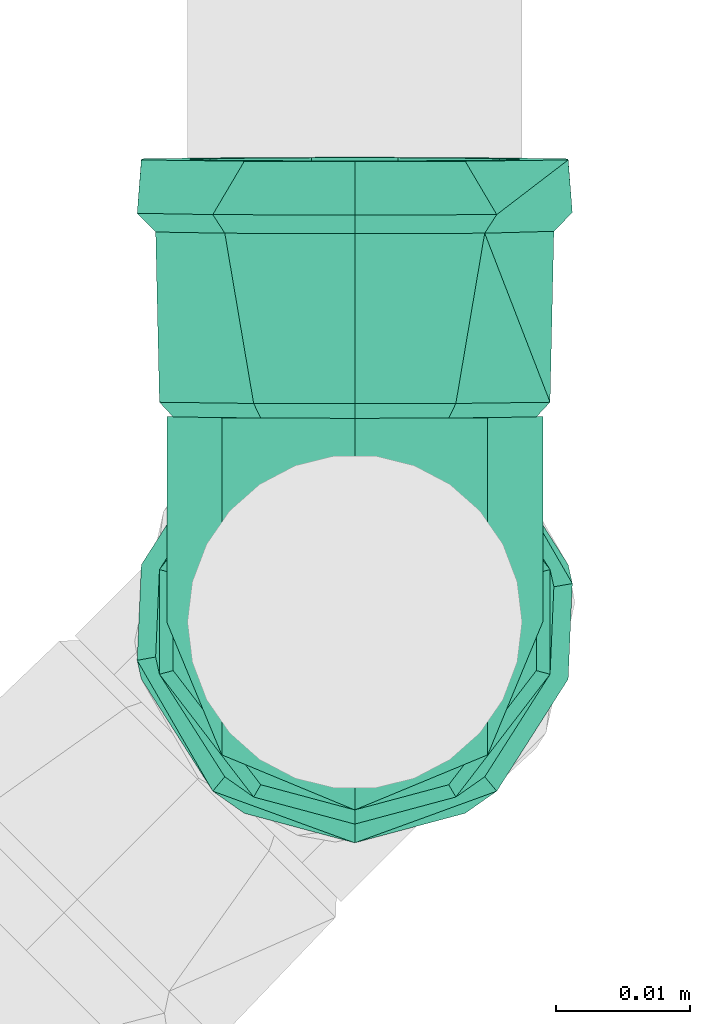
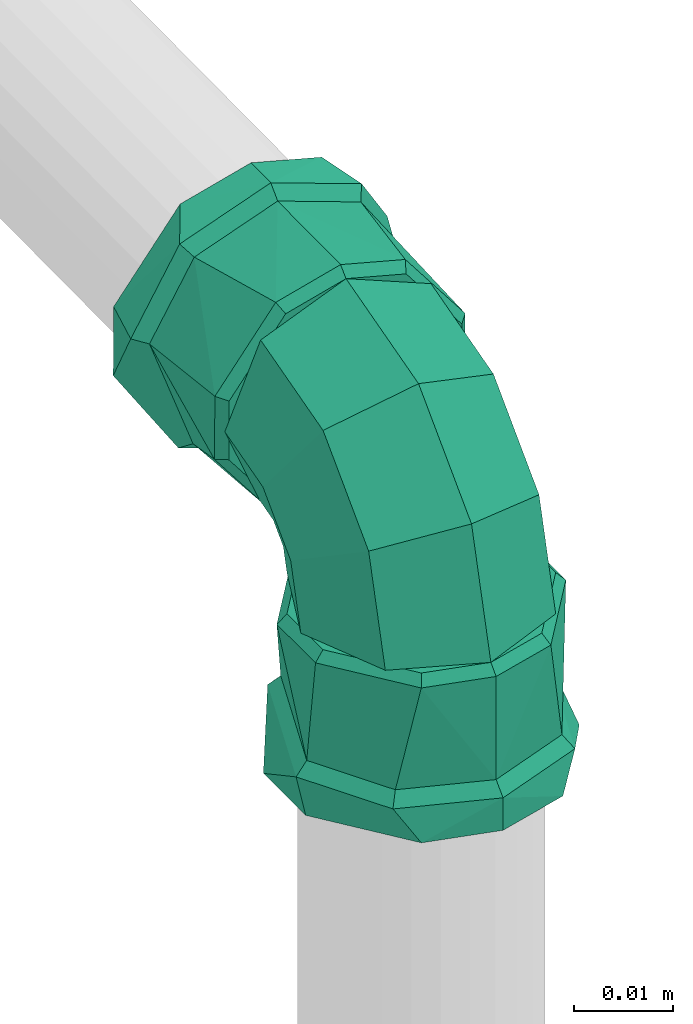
# One storey, part 340 of 589: 1 flow fitting.
"""IFC2X3 building model written with IfcOpenShell, lengths in millimetres."""

from ifc_helpers import new_model, entity, si_unit, converted_unit, derived_unit, direction, frame, origin, place, context, subcontext, project, spatial, faceted_brep, source, transform, mapped, material, type_object, type_shapes, element, save


model = new_model("IFC2X3")

# Units and contexts
model_context = context("Model", 3, precision=0.01, world=origin(), true_north=direction((6.123031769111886e-17, 1.0)))
body_context = subcontext(model_context, "Body", "Model", "MODEL_VIEW")
ifc_project = project(units=[si_unit("LENGTHUNIT", "METRE", prefix="MILLI"), si_unit("AREAUNIT", "SQUARE_METRE"), si_unit("VOLUMEUNIT", "CUBIC_METRE"), converted_unit("PLANEANGLEUNIT", "DEGREE", entity("IfcRatioMeasure", 0.017453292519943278), si_unit("PLANEANGLEUNIT", "RADIAN"), dimensions=[0, 0, 0, 0, 0, 0, 0]), si_unit("MASSUNIT", "GRAM", prefix="KILO"), derived_unit("MASSDENSITYUNIT", [(si_unit("MASSUNIT", "GRAM", prefix="KILO"), 1), (si_unit("LENGTHUNIT", "METRE"), -3)]), derived_unit("IONCONCENTRATIONUNIT", [(si_unit("MASSUNIT", "GRAM", prefix="KILO"), 1), (si_unit("LENGTHUNIT", "METRE"), -3)]), derived_unit("MOMENTOFINERTIAUNIT", [(si_unit("LENGTHUNIT", "METRE"), 4)]), si_unit("TIMEUNIT", "SECOND"), si_unit("FREQUENCYUNIT", "HERTZ"), si_unit("THERMODYNAMICTEMPERATUREUNIT", "DEGREE_CELSIUS"), derived_unit("THERMALTRANSMITTANCEUNIT", [(si_unit("MASSUNIT", "GRAM", prefix="KILO"), 1), (si_unit("THERMODYNAMICTEMPERATUREUNIT", "KELVIN"), -1), (si_unit("TIMEUNIT", "SECOND"), -3)]), derived_unit("THERMALCONDUCTANCEUNIT", [(si_unit("MASSUNIT", "GRAM", prefix="KILO"), 1), (si_unit("THERMODYNAMICTEMPERATUREUNIT", "KELVIN"), -1), (si_unit("TIMEUNIT", "SECOND"), -3), (si_unit("LENGTHUNIT", "METRE"), 1)]), derived_unit("VOLUMETRICFLOWRATEUNIT", [(si_unit("LENGTHUNIT", "METRE"), 3), (si_unit("TIMEUNIT", "SECOND"), -1)]), derived_unit("MASSFLOWRATEUNIT", [(si_unit("MASSUNIT", "GRAM", prefix="KILO"), 1), (si_unit("TIMEUNIT", "SECOND"), -1)]), derived_unit("ROTATIONALFREQUENCYUNIT", [(si_unit("TIMEUNIT", "SECOND"), -1)]), si_unit("ELECTRICCURRENTUNIT", "AMPERE"), si_unit("ELECTRICVOLTAGEUNIT", "VOLT"), si_unit("POWERUNIT", "WATT"), si_unit("FORCEUNIT", "NEWTON", prefix="KILO"), si_unit("ILLUMINANCEUNIT", "LUX"), si_unit("LUMINOUSFLUXUNIT", "LUMEN"), si_unit("LUMINOUSINTENSITYUNIT", "CANDELA"), derived_unit("USERDEFINED", [(si_unit("MASSUNIT", "GRAM", prefix="KILO"), -1), (si_unit("LENGTHUNIT", "METRE"), -2), (si_unit("TIMEUNIT", "SECOND"), 3), (si_unit("LUMINOUSFLUXUNIT", "LUMEN"), 1)]), derived_unit("USERDEFINED", [(si_unit("MASSUNIT", "GRAM", prefix="KILO"), 1), (si_unit("TIMEUNIT", "SECOND"), -3), (si_unit("LENGTHUNIT", "METRE"), 3), (si_unit("ELECTRICCURRENTUNIT", "AMPERE"), -2)]), derived_unit("SOUNDPOWERUNIT", [(si_unit("MASSUNIT", "GRAM", prefix="KILO"), 1), (si_unit("TIMEUNIT", "SECOND"), -3), (si_unit("LENGTHUNIT", "METRE"), 2)]), derived_unit("SOUNDPRESSUREUNIT", [(si_unit("MASSUNIT", "GRAM", prefix="KILO"), 1), (si_unit("LENGTHUNIT", "METRE"), -1), (si_unit("TIMEUNIT", "SECOND"), -2)]), derived_unit("LINEARVELOCITYUNIT", [(si_unit("LENGTHUNIT", "METRE"), 1), (si_unit("TIMEUNIT", "SECOND"), -1)]), si_unit("PRESSUREUNIT", "PASCAL"), derived_unit("USERDEFINED", [(si_unit("MASSUNIT", "GRAM", prefix="KILO"), 1), (si_unit("LENGTHUNIT", "METRE"), -2), (si_unit("TIMEUNIT", "SECOND"), -2)]), derived_unit("LINEARFORCEUNIT", [(si_unit("MASSUNIT", "GRAM", prefix="KILO"), 1), (si_unit("TIMEUNIT", "SECOND"), -2)]), derived_unit("PLANARFORCEUNIT", [(si_unit("MASSUNIT", "GRAM", prefix="KILO"), 1), (si_unit("LENGTHUNIT", "METRE"), -1), (si_unit("TIMEUNIT", "SECOND"), -2)]), derived_unit("SPECIFICHEATCAPACITYUNIT", [(si_unit("THERMODYNAMICTEMPERATUREUNIT", "KELVIN"), -1), (si_unit("LENGTHUNIT", "METRE"), 2), (si_unit("TIMEUNIT", "SECOND"), -2)]), derived_unit("HEATINGVALUEUNIT", [(si_unit("LENGTHUNIT", "METRE"), 2), (si_unit("TIMEUNIT", "SECOND"), -2)]), derived_unit("VAPORPERMEABILITYUNIT", [(si_unit("LENGTHUNIT", "METRE"), -1), (si_unit("TIMEUNIT", "SECOND"), 1)]), derived_unit("DYNAMICVISCOSITYUNIT", [(si_unit("MASSUNIT", "GRAM", prefix="KILO"), 1), (si_unit("TIMEUNIT", "SECOND"), -1), (si_unit("LENGTHUNIT", "METRE"), -1)]), derived_unit("THERMALEXPANSIONCOEFFICIENTUNIT", [(si_unit("THERMODYNAMICTEMPERATUREUNIT", "KELVIN"), -1)]), derived_unit("MODULUSOFELASTICITYUNIT", [(si_unit("MASSUNIT", "GRAM", prefix="KILO"), 1), (si_unit("LENGTHUNIT", "METRE"), -1), (si_unit("TIMEUNIT", "SECOND"), -2)]), derived_unit("ISOTHERMALMOISTURECAPACITYUNIT", [(si_unit("LENGTHUNIT", "METRE"), 3), (si_unit("MASSUNIT", "GRAM", prefix="KILO"), -1)]), derived_unit("MOISTUREDIFFUSIVITYUNIT", [(si_unit("TIMEUNIT", "SECOND"), -1), (si_unit("LENGTHUNIT", "METRE"), 2)])], contexts=[model_context])

# Site, building, storey
site_placement = place(None, origin())
site = spatial("IfcSite", under=ifc_project, at=site_placement, Name="Default", CompositionType="ELEMENT")
building_placement = place(site_placement, origin())
building = spatial("IfcBuilding", under=site, at=building_placement, CompositionType="ELEMENT")
storey_placement = place(building_placement, frame((0.0, 0.0, 100.0)))
storey = spatial("IfcBuildingStorey", under=building, at=storey_placement, Name="TÉRREO", CompositionType="ELEMENT", Elevation=100.0)

# Flow fitting
ifc_material = material(Name="PVC Marrom")
pipe_fitting_type = type_object("IfcPipeFittingType", Name="PVC Marrom Soldável_Joelho 45°_90°_Rodrigo MEP:Joelho", PredefinedType="NOTDEFINED", material=ifc_material)
shared_shape = source(origin(), body_context, "Body", "Brep", [
    faceted_brep([(4.072421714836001, -16.405873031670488, 14.585479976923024), (-3.7435226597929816, -16.48403247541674, 14.585479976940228), (-12.911880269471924, -16.57571605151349, 7.549999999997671), (-14.934795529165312, -16.59594520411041, 0.0), (-12.91188026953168, -16.575716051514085, -7.550000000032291), (-3.7435226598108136, -16.48403247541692, -14.585479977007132), (4.07242171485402, -16.405873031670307, -14.585479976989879), (13.240779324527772, -16.314189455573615, -7.55000000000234), (15.263694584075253, -16.29396030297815, 0.0), (13.240779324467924, -16.314189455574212, 7.549999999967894), (3.7870877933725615, -15.308671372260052, 13.561598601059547), (12.31183884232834, -15.223423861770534, 7.019999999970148), (14.192748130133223, -15.204614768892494, 0.0), (12.311838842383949, -15.223423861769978, -7.02000000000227), (3.7870877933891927, -15.308671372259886, -13.561598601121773), (-3.480187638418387, -15.381344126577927, -13.561598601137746), (-12.004938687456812, -15.466591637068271, -7.020000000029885), (-13.885847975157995, -15.485400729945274, 0.0), (-12.004938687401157, -15.466591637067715, 7.0199999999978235), (-3.4801876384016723, -15.38134412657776, 13.561598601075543)], [[[0, 1, 2, 3, 4, 5, 6, 7, 8, 9]], [[10, 11, 12, 13, 14, 15, 16, 17, 18, 19]], [[13, 12, 8, 7]], [[14, 13, 7, 6]], [[6, 5, 15, 14]], [[16, 15, 5, 4]], [[17, 16, 4, 3]], [[18, 17, 3, 2]], [[19, 18, 2, 1]], [[1, 0, 10, 19]], [[11, 10, 0, 9]], [[12, 11, 9, 8]]]),
    faceted_brep([(-16.445774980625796, -3.908167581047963, 14.585479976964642), (-16.445774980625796, 3.908167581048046, 14.585479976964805), (-16.445774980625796, 13.076983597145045, 7.550000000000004), (-16.445774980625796, 15.100000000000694, 0.0), (-16.445774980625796, 13.0769835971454, -7.550000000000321), (-16.445774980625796, 3.9081675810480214, -14.585479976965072), (-16.445774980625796, -3.9081675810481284, -14.58547997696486), (-16.445774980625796, -13.076983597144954, -7.54999999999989), (-16.445774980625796, -15.099999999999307, 0.0), (-16.445774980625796, -13.076983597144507, 7.549999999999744), (-15.345774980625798, 3.633819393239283, 13.56159860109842), (-15.345774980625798, -3.6338193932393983, 13.561598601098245), (-15.345774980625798, -12.158996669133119, 7.019999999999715), (-15.345774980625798, -14.040000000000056, 0.0), (-15.345774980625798, -12.158996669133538, -7.019999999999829), (-15.345774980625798, -3.6338193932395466, -13.56159860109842), (-15.345774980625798, 3.63381939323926, -13.561598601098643), (-15.345774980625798, 12.158996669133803, -7.020000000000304), (-15.345774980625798, 14.039999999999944, 0.0), (-15.345774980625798, 12.15899666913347, 7.020000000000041)], [[[0, 1, 2, 3, 4, 5, 6, 7, 8, 9]], [[10, 11, 12, 13, 14, 15, 16, 17, 18, 19]], [[14, 13, 8, 7]], [[15, 14, 7, 6]], [[6, 5, 16, 15]], [[17, 16, 5, 4]], [[18, 17, 4, 3]], [[19, 18, 3, 2]], [[10, 19, 2, 1]], [[1, 0, 11, 10]], [[12, 11, 0, 9]], [[13, 12, 9, 8]]]),
    faceted_brep([(-34.545774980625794, 0.0, -12.5), (-34.545774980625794, 6.250000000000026, -10.825317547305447), (-34.545774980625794, 4.2705142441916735, -15.937776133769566), (-34.545774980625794, -4.270514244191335, -15.937776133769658), (-34.545774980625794, -6.250000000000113, -10.82531754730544), (-34.545774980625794, 14.289419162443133, -8.25000000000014), (-34.545774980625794, 12.074072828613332, -3.23523806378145), (-34.545774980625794, 16.5, 0.0), (-34.545774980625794, 12.074072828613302, 3.2352380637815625), (-34.545774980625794, 14.289419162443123, 8.249999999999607), (-34.545774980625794, 6.249999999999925, 10.825317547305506), (-34.545774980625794, 4.27051424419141, 15.937776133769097), (-34.545774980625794, 0.0, 12.5), (-34.545774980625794, -4.270514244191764, 15.937776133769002), (-34.545774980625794, -6.249999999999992, 10.825317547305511), (-34.545774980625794, -14.28941916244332, 8.249999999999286), (-34.545774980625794, -12.074072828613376, 3.2352380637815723), (-34.545774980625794, -16.5, 0.0), (-34.545774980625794, -12.074072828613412, -3.235238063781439), (-34.545774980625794, -14.289419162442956, -8.250000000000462), (-30.545774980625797, -16.5, 0.0), (-30.545774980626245, -12.639142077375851, 10.606700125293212), (-30.545774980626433, -4.885841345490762, 13.427814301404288), (-30.54577498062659, 2.8674593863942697, 16.24892847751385), (-30.545774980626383, 12.64180232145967, 10.603529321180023), (-30.545774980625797, 16.499999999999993, 0.0), (-30.545774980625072, 12.641802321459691, -10.603529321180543), (-30.545774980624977, 4.889209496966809, -13.426588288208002), (-30.54577498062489, -2.8633833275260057, -16.249647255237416), (-30.545774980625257, -12.639142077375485, -10.606700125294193), (-29.145774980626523, 11.56916454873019, 9.703835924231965), (-29.145774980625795, 15.099999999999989, 0.0), (-29.145774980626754, 2.624159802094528, 14.870231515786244), (-29.145774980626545, -4.471285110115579, 12.288484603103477), (-29.14577498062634, -11.566730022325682, 9.706737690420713), (-29.145774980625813, -15.099999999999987, 0.0), (-29.14577498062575, -11.566730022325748, -9.706737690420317), (-29.145774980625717, -2.620429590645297, -14.87088930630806), (-29.14577498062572, 4.4743674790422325, -12.287362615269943), (-29.145774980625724, 11.569164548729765, -9.703835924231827), (-16.445774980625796, 3.908167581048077, -14.585479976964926), (-16.445774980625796, 6.250000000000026, -10.825317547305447), (-16.445774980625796, 0.0, -12.5), (-16.445774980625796, 13.076983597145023, -7.549999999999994), (-16.445774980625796, -3.9081675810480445, -14.585479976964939), (-16.445774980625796, 12.074072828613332, -3.23523806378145), (-16.445774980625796, 15.099999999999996, 0.0), (-16.445774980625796, 12.074072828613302, 3.2352380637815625), (-16.445774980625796, 13.076983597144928, 7.550000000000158), (-16.445774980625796, 6.249999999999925, 10.825317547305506), (-16.445774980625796, 3.9081675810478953, 14.585479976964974), (-16.445774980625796, 0.0, 12.5), (-16.445774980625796, -3.9081675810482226, 14.58547997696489), (-16.445774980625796, -6.249999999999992, 10.825317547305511), (-16.445774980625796, -13.076983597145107, 7.549999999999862), (-16.445774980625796, -12.074072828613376, 3.2352380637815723), (-16.445774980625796, -15.100000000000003, 0.0), (-16.445774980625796, -12.074072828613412, -3.235238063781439), (-16.445774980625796, -13.076983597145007, -7.550000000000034), (-16.445774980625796, -6.250000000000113, -10.82531754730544)], [[[0, 1, 2]], [[2, 3, 0]], [[4, 0, 3]], [[5, 2, 1]], [[1, 6, 5]], [[6, 7, 5]], [[8, 7, 6]], [[7, 8, 9]], [[10, 9, 8]], [[9, 10, 11]], [[12, 11, 10]], [[13, 11, 12]], [[12, 14, 13]], [[13, 14, 15]], [[16, 15, 14]], [[15, 16, 17]], [[16, 18, 17]], [[19, 18, 4]], [[17, 18, 19]], [[3, 19, 4]], [[20, 15, 17]], [[20, 21, 15]], [[13, 15, 21]], [[13, 21, 22, 23]], [[9, 11, 24]], [[7, 9, 25]], [[23, 24, 11]], [[25, 9, 24]], [[13, 23, 11]], [[25, 5, 7]], [[25, 26, 5]], [[2, 5, 26]], [[2, 26, 27, 28]], [[19, 3, 29]], [[17, 19, 20]], [[28, 29, 3]], [[20, 19, 29]], [[2, 28, 3]], [[24, 30, 31, 25]], [[30, 24, 23, 32]], [[33, 32, 23, 22, 21, 34]], [[20, 35, 34, 21]], [[29, 36, 35, 20]], [[36, 29, 28, 37]], [[38, 37, 28, 27, 26, 39]], [[25, 31, 39, 26]], [[40, 41, 42]], [[41, 40, 43]], [[42, 44, 40]], [[43, 45, 41]], [[43, 46, 45]], [[45, 46, 47]], [[48, 47, 46]], [[47, 48, 49]], [[50, 49, 48]], [[49, 50, 51]], [[51, 50, 52]], [[52, 53, 51]], [[54, 53, 52]], [[53, 54, 55]], [[56, 55, 54]], [[56, 57, 55]], [[58, 57, 56]], [[59, 57, 58]], [[59, 58, 44]], [[44, 42, 59]], [[54, 34, 35]], [[56, 54, 35]], [[52, 34, 54]], [[52, 32, 33, 34]], [[30, 32, 50]], [[31, 30, 48]], [[50, 48, 30]], [[46, 31, 48]], [[52, 50, 32]], [[43, 39, 31]], [[46, 43, 31]], [[40, 39, 43]], [[40, 37, 38, 39]], [[36, 37, 44]], [[35, 36, 58]], [[44, 58, 36]], [[56, 35, 58]], [[40, 44, 37]], [[49, 51, 12, 10]], [[47, 49, 10, 8]], [[8, 6, 45, 47]], [[41, 45, 6, 1]], [[42, 41, 1, 0]], [[59, 42, 0, 4]], [[57, 59, 4, 18]], [[18, 16, 55, 57]], [[53, 55, 16, 14]], [[51, 53, 14, 12]]]),
    faceted_brep([(10.13758433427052, -0.5597858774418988, 0.0), (6.590082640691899, -2.6395915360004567, 9.92777920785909), (10.080732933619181, -15.245734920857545, 9.92777920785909), (14.192748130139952, -15.20461476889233, 0.0), (-1.9743440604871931, -7.660686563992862, 14.04), (0.15345007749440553, -15.34500774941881, 14.04), (-10.538770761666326, -12.681781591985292, 9.927779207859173), (-9.77383277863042, -15.444280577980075, 9.927779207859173), (-14.086272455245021, -14.761587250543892, 0.0), (-13.885847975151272, -15.48540072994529, 0.0), (-10.538770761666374, -12.681781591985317, -9.92777920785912), (-9.77383277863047, -15.444280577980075, -9.92777920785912), (-1.974344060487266, -7.660686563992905, -14.04), (0.15345007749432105, -15.34500774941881, -14.04), (6.590082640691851, -2.6395915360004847, -9.927779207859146), (10.080732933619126, -15.245734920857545, -9.927779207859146), (-0.6611286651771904, 10.131479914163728, 0.0), (-2.7053570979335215, 6.563358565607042, 9.92777920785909), (-7.640561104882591, -2.050848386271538, 14.04), (-12.575765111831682, -10.665055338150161, 9.927779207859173), (-14.619993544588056, -14.233176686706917, 0.0), (-12.57576511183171, -10.665055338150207, -9.92777920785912), (-7.640561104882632, -2.050848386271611, -14.04), (-2.705357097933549, 6.563358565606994, -9.927779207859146), (-15.345774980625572, 14.03999999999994, 0.0), (-15.3457749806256, 9.927779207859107, 9.92777920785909), (-15.345774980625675, 0.0, 14.04), (-15.345774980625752, -9.927779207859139, 9.927779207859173), (-15.345774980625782, -14.040000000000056, 0.0), (-15.345774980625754, -9.927779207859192, -9.92777920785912), (-15.345774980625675, 0.0, -14.04), (-15.3457749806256, 9.92777920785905, -9.927779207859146)], [[[0, 1, 2, 3]], [[1, 4, 5, 2]], [[4, 6, 7, 5]], [[6, 8, 9, 7]], [[8, 10, 11, 9]], [[10, 12, 13, 11]], [[12, 14, 15, 13]], [[14, 0, 3, 15]], [[16, 17, 1, 0]], [[17, 18, 4, 1]], [[18, 19, 6, 4]], [[19, 20, 8, 6]], [[20, 21, 10, 8]], [[21, 22, 12, 10]], [[22, 23, 14, 12]], [[23, 16, 0, 14]], [[24, 25, 17, 16]], [[25, 26, 18, 17]], [[26, 27, 19, 18]], [[27, 28, 20, 19]], [[28, 29, 21, 20]], [[29, 30, 22, 21]], [[30, 31, 23, 22]], [[31, 24, 16, 23]], [[3, 2, 5, 7, 9, 11, 13, 15]], [[31, 30, 29, 28, 27, 26, 25, 24]]]),
    faceted_brep([(-3.743522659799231, -16.484032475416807, -14.585479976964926), (-6.085237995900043, -16.507449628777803, -10.825317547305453), (0.16444952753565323, -16.444952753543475, -12.5), (-12.911880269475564, -16.575716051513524, -7.5499999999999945), (4.072421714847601, -16.40587303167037, -14.585479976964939), (-11.90901964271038, -16.565687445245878, -3.235238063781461), (-14.934795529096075, -16.595945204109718, 0.0), (-11.90901964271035, -16.565687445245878, 3.2352380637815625), (-12.911880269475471, -16.575716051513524, 7.550000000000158), (-6.08523799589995, -16.507449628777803, 10.825317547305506), (-3.7435226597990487, -16.484032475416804, 14.585479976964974), (0.16444952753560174, -16.444952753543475, 12.5), (4.0724217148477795, -16.40587303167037, 14.58547997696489), (6.414137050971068, -16.38245587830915, 10.825317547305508), (13.240779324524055, -16.31418945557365, 7.549999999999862), (12.23791869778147, -16.324218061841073, 3.2352380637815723), (15.263694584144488, -16.293960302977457, 0.0), (12.23791869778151, -16.324218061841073, -3.235238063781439), (13.240779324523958, -16.31418945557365, -7.550000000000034), (6.414137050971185, -16.38245587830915, -10.82531754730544), (11.85759490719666, -29.02865628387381, 9.706737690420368), (15.39068823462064, -28.99332535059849, 0.0), (2.911741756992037, -29.11811481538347, 14.870889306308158), (-11.27714295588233, -29.260003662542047, 9.703835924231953), (-4.182700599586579, -29.189059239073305, 12.287362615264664), (-14.807801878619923, -29.29531025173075, 0.0), (-11.27714295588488, -29.26000366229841, -9.703835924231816), (-2.332585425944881, -29.170558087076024, -14.870231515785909), (11.857594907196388, -29.028656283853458, -9.706737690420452), (4.76250474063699, -29.099607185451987, -12.28848460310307), (3.1727585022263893, -30.515574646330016, 16.248928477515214), (-4.580154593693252, -30.59310377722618, 13.427814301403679), (-16.193732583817, -30.709239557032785, 0.0), (-12.333067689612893, -30.670632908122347, 10.606700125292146), (12.946612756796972, -30.41783610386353, 10.603529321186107), (16.80461753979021, -30.37925605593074, 0.0), (12.946612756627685, -30.41783610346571, -10.603529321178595), (5.194407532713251, -30.495358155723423, -13.426588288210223), (-2.557797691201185, -30.572880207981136, -16.249647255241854), (-12.333067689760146, -30.670632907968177, -10.606700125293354), (0.34544047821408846, -34.54404782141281, -12.5), (-5.904247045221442, -34.606544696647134, -10.825317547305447), (-3.9248602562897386, -34.58675082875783, -15.937776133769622), (4.61574121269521, -34.50134481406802, -15.937776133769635), (6.595128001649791, -34.48155094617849, -10.82531754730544), (-13.94326426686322, -34.68693486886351, -8.24999999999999), (-11.72802869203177, -34.664782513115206, -3.23523806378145), (-16.153734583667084, -34.709039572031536, 0.0), (-11.72802869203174, -34.664782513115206, 3.2352380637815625), (-13.943264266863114, -34.68693486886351, 8.250000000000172), (-5.904247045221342, -34.606544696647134, 10.825317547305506), (-3.92486025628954, -34.58675082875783, 15.937776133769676), (0.34544047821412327, -34.54404782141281, 12.5), (4.615741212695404, -34.50134481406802, 15.937776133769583), (6.5951280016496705, -34.48155094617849, 10.825317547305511), (14.63414522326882, -34.40116077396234, 8.24999999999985), (12.418909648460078, -34.423313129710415, 3.2352380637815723), (16.844615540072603, -34.37905607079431, 0.0), (12.418909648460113, -34.423313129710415, -3.235238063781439), (14.634145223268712, -34.40116077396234, -8.250000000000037)], [[[0, 1, 2]], [[1, 0, 3]], [[2, 4, 0]], [[3, 5, 1]], [[3, 6, 5]], [[5, 6, 7]], [[8, 7, 6]], [[7, 8, 9]], [[10, 9, 8]], [[9, 10, 11]], [[11, 10, 12]], [[12, 13, 11]], [[14, 13, 12]], [[13, 14, 15]], [[16, 15, 14]], [[16, 17, 15]], [[18, 17, 16]], [[19, 17, 18]], [[19, 18, 4]], [[4, 2, 19]], [[14, 20, 21]], [[16, 14, 21]], [[12, 20, 14]], [[12, 22, 20]], [[10, 23, 24, 22]], [[25, 23, 8]], [[10, 8, 23]], [[6, 25, 8]], [[12, 10, 22]], [[3, 26, 25]], [[6, 3, 25]], [[0, 26, 3]], [[0, 27, 26]], [[4, 28, 29, 27]], [[21, 28, 18]], [[4, 18, 28]], [[16, 21, 18]], [[0, 4, 27]], [[30, 22, 31]], [[32, 23, 25]], [[33, 23, 32]], [[31, 24, 33]], [[34, 21, 20]], [[24, 23, 33]], [[20, 30, 34]], [[21, 34, 35]], [[24, 31, 22]], [[22, 30, 20]], [[36, 28, 21]], [[21, 35, 36]], [[36, 37, 28]], [[37, 29, 28]], [[37, 38, 29]], [[32, 25, 26]], [[27, 39, 26]], [[32, 26, 39]], [[27, 29, 38]], [[38, 39, 27]], [[40, 41, 42]], [[42, 43, 40]], [[44, 40, 43]], [[45, 42, 41]], [[41, 46, 45]], [[46, 47, 45]], [[48, 47, 46]], [[47, 48, 49]], [[50, 49, 48]], [[49, 50, 51]], [[52, 51, 50]], [[53, 51, 52]], [[52, 54, 53]], [[53, 54, 55]], [[56, 55, 54]], [[55, 56, 57]], [[56, 58, 57]], [[59, 58, 44]], [[57, 58, 59]], [[43, 59, 44]], [[35, 55, 57]], [[35, 34, 55]], [[53, 55, 34]], [[30, 53, 34]], [[49, 51, 33]], [[47, 49, 32]], [[51, 30, 31, 33]], [[32, 49, 33]], [[53, 30, 51]], [[32, 45, 47]], [[32, 39, 45]], [[42, 45, 39]], [[38, 42, 39]], [[59, 43, 36]], [[57, 59, 35]], [[43, 38, 37, 36]], [[35, 59, 36]], [[42, 38, 43]], [[9, 11, 52, 50]], [[7, 9, 50, 48]], [[48, 46, 5, 7]], [[1, 5, 46, 41]], [[2, 1, 41, 40]], [[19, 2, 40, 44]], [[17, 19, 44, 58]], [[58, 56, 15, 17]], [[13, 15, 56, 54]], [[11, 13, 54, 52]]]),
])
type_shapes(pipe_fitting_type, [shared_shape])
flow_fitting_placement = place(storey_placement, frame((3151.953770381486, -7642.219987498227, 2576.374293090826), z_axis=(-1.0, 0.0, 0.0), x_axis=(0.0, -0.9999500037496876, -0.009999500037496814)))
element("IfcFlowFitting", 1, at=flow_fitting_placement, inside=storey, type_object=pipe_fitting_type, material=ifc_material, Name="PVC Marrom Soldável_Joelho 45°_90°_Rodrigo MEP:Joelho", ObjectType="PVC Marrom Soldável_Joelho 45°_90°_Rodrigo MEP:Joelho", context=body_context, shape_type="MappedRepresentation", body=[
    mapped(shared_shape, transform((0.0, 0.0, 0.0), scale=1.0)),
])

save(model, "model.ifc")
